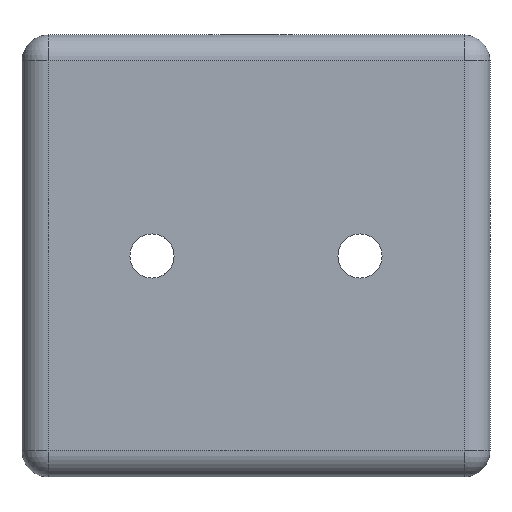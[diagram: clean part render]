
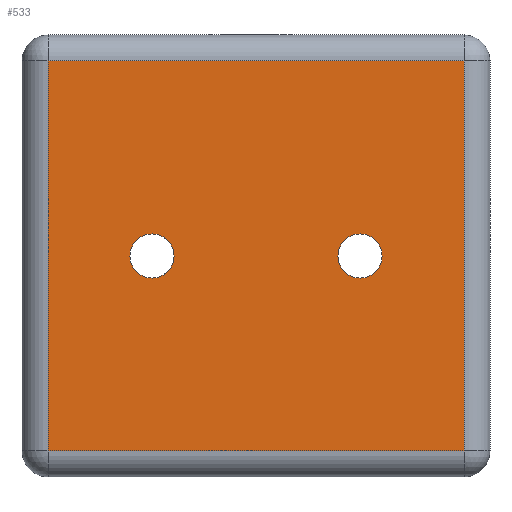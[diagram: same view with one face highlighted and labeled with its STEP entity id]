
A CAD part, front view. The second image highlights one B-rep face of the part: STEP entity #533.
In plain terms, the highlighted planar face has unit normal (0, -1, 0).
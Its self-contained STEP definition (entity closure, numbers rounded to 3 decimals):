
#44 = CYLINDRICAL_SURFACE('',#45,2.);
#45 = AXIS2_PLACEMENT_3D('',#46,#47,#48);
#46 = CARTESIAN_POINT('',(6.,-88.,-265.));
#47 = DIRECTION('',(0.,0.,1.));
#48 = DIRECTION('',(-1.,-0.,0.));
#143 = VERTEX_POINT('',#144);
#144 = CARTESIAN_POINT('',(6.,-90.,-263.));
#171 = EDGE_CURVE('',#143,#172,#174,.T.);
#172 = VERTEX_POINT('',#173);
#173 = CARTESIAN_POINT('',(6.,-90.,-233.));
#174 = SURFACE_CURVE('',#175,(#179,#186),.PCURVE_S1.);
#175 = LINE('',#176,#177);
#176 = CARTESIAN_POINT('',(6.,-90.,-265.));
#177 = VECTOR('',#178,1.);
#178 = DIRECTION('',(0.,0.,1.));
#179 = PCURVE('',#44,#180);
#180 = DEFINITIONAL_REPRESENTATION('',(#181),#185);
#181 = LINE('',#182,#183);
#182 = CARTESIAN_POINT('',(1.571,0.));
#183 = VECTOR('',#184,1.);
#184 = DIRECTION('',(0.,1.));
#185 = ( GEOMETRIC_REPRESENTATION_CONTEXT(2) 
PARAMETRIC_REPRESENTATION_CONTEXT() REPRESENTATION_CONTEXT('2D SPACE',''
  ) );
#186 = PCURVE('',#187,#192);
#187 = PLANE('',#188);
#188 = AXIS2_PLACEMENT_3D('',#189,#190,#191);
#189 = CARTESIAN_POINT('',(4.,-90.,-265.));
#190 = DIRECTION('',(0.,1.,0.));
#191 = DIRECTION('',(0.,0.,1.));
#192 = DEFINITIONAL_REPRESENTATION('',(#193),#197);
#193 = LINE('',#194,#195);
#194 = CARTESIAN_POINT('',(0.,2.));
#195 = VECTOR('',#196,1.);
#196 = DIRECTION('',(1.,0.));
#197 = ( GEOMETRIC_REPRESENTATION_CONTEXT(2) 
PARAMETRIC_REPRESENTATION_CONTEXT() REPRESENTATION_CONTEXT('2D SPACE',''
  ) );
#489 = CYLINDRICAL_SURFACE('',#490,2.);
#490 = AXIS2_PLACEMENT_3D('',#491,#492,#493);
#491 = CARTESIAN_POINT('',(4.,-88.,-263.));
#492 = DIRECTION('',(1.,0.,0.));
#493 = DIRECTION('',(0.,-1.,0.));
#521 = CYLINDRICAL_SURFACE('',#522,2.);
#522 = AXIS2_PLACEMENT_3D('',#523,#524,#525);
#523 = CARTESIAN_POINT('',(4.,-88.,-233.));
#524 = DIRECTION('',(1.,0.,0.));
#525 = DIRECTION('',(0.,-1.,0.));
#533 = ADVANCED_FACE('',(#534,#609,#640),#187,.F.);
#534 = FACE_BOUND('',#535,.F.);
#535 = EDGE_LOOP('',(#536,#537,#560,#588));
#536 = ORIENTED_EDGE('',*,*,#171,.T.);
#537 = ORIENTED_EDGE('',*,*,#538,.T.);
#538 = EDGE_CURVE('',#172,#539,#541,.T.);
#539 = VERTEX_POINT('',#540);
#540 = CARTESIAN_POINT('',(38.,-90.,-233.));
#541 = SURFACE_CURVE('',#542,(#546,#553),.PCURVE_S1.);
#542 = LINE('',#543,#544);
#543 = CARTESIAN_POINT('',(4.,-90.,-233.));
#544 = VECTOR('',#545,1.);
#545 = DIRECTION('',(1.,0.,0.));
#546 = PCURVE('',#187,#547);
#547 = DEFINITIONAL_REPRESENTATION('',(#548),#552);
#548 = LINE('',#549,#550);
#549 = CARTESIAN_POINT('',(32.,0.));
#550 = VECTOR('',#551,1.);
#551 = DIRECTION('',(0.,1.));
#552 = ( GEOMETRIC_REPRESENTATION_CONTEXT(2) 
PARAMETRIC_REPRESENTATION_CONTEXT() REPRESENTATION_CONTEXT('2D SPACE',''
  ) );
#553 = PCURVE('',#521,#554);
#554 = DEFINITIONAL_REPRESENTATION('',(#555),#559);
#555 = LINE('',#556,#557);
#556 = CARTESIAN_POINT('',(-0.,0.));
#557 = VECTOR('',#558,1.);
#558 = DIRECTION('',(-0.,1.));
#559 = ( GEOMETRIC_REPRESENTATION_CONTEXT(2) 
PARAMETRIC_REPRESENTATION_CONTEXT() REPRESENTATION_CONTEXT('2D SPACE',''
  ) );
#560 = ORIENTED_EDGE('',*,*,#561,.F.);
#561 = EDGE_CURVE('',#562,#539,#564,.T.);
#562 = VERTEX_POINT('',#563);
#563 = CARTESIAN_POINT('',(38.,-90.,-263.));
#564 = SURFACE_CURVE('',#565,(#569,#576),.PCURVE_S1.);
#565 = LINE('',#566,#567);
#566 = CARTESIAN_POINT('',(38.,-90.,-265.));
#567 = VECTOR('',#568,1.);
#568 = DIRECTION('',(0.,0.,1.));
#569 = PCURVE('',#187,#570);
#570 = DEFINITIONAL_REPRESENTATION('',(#571),#575);
#571 = LINE('',#572,#573);
#572 = CARTESIAN_POINT('',(0.,34.));
#573 = VECTOR('',#574,1.);
#574 = DIRECTION('',(1.,0.));
#575 = ( GEOMETRIC_REPRESENTATION_CONTEXT(2) 
PARAMETRIC_REPRESENTATION_CONTEXT() REPRESENTATION_CONTEXT('2D SPACE',''
  ) );
#576 = PCURVE('',#577,#582);
#577 = CYLINDRICAL_SURFACE('',#578,2.);
#578 = AXIS2_PLACEMENT_3D('',#579,#580,#581);
#579 = CARTESIAN_POINT('',(38.,-88.,-265.));
#580 = DIRECTION('',(0.,0.,1.));
#581 = DIRECTION('',(1.,0.,-0.));
#582 = DEFINITIONAL_REPRESENTATION('',(#583),#587);
#583 = LINE('',#584,#585);
#584 = CARTESIAN_POINT('',(-1.571,0.));
#585 = VECTOR('',#586,1.);
#586 = DIRECTION('',(-0.,1.));
#587 = ( GEOMETRIC_REPRESENTATION_CONTEXT(2) 
PARAMETRIC_REPRESENTATION_CONTEXT() REPRESENTATION_CONTEXT('2D SPACE',''
  ) );
#588 = ORIENTED_EDGE('',*,*,#589,.F.);
#589 = EDGE_CURVE('',#143,#562,#590,.T.);
#590 = SURFACE_CURVE('',#591,(#595,#602),.PCURVE_S1.);
#591 = LINE('',#592,#593);
#592 = CARTESIAN_POINT('',(4.,-90.,-263.));
#593 = VECTOR('',#594,1.);
#594 = DIRECTION('',(1.,0.,0.));
#595 = PCURVE('',#187,#596);
#596 = DEFINITIONAL_REPRESENTATION('',(#597),#601);
#597 = LINE('',#598,#599);
#598 = CARTESIAN_POINT('',(2.,0.));
#599 = VECTOR('',#600,1.);
#600 = DIRECTION('',(0.,1.));
#601 = ( GEOMETRIC_REPRESENTATION_CONTEXT(2) 
PARAMETRIC_REPRESENTATION_CONTEXT() REPRESENTATION_CONTEXT('2D SPACE',''
  ) );
#602 = PCURVE('',#489,#603);
#603 = DEFINITIONAL_REPRESENTATION('',(#604),#608);
#604 = LINE('',#605,#606);
#605 = CARTESIAN_POINT('',(0.,0.));
#606 = VECTOR('',#607,1.);
#607 = DIRECTION('',(0.,1.));
#608 = ( GEOMETRIC_REPRESENTATION_CONTEXT(2) 
PARAMETRIC_REPRESENTATION_CONTEXT() REPRESENTATION_CONTEXT('2D SPACE',''
  ) );
#609 = FACE_BOUND('',#610,.F.);
#610 = EDGE_LOOP('',(#611));
#611 = ORIENTED_EDGE('',*,*,#612,.F.);
#612 = EDGE_CURVE('',#613,#613,#615,.T.);
#613 = VERTEX_POINT('',#614);
#614 = CARTESIAN_POINT('',(14.,-90.,-246.3));
#615 = SURFACE_CURVE('',#616,(#621,#628),.PCURVE_S1.);
#616 = CIRCLE('',#617,1.7);
#617 = AXIS2_PLACEMENT_3D('',#618,#619,#620);
#618 = CARTESIAN_POINT('',(14.,-90.,-248.));
#619 = DIRECTION('',(0.,1.,0.));
#620 = DIRECTION('',(0.,-0.,1.));
#621 = PCURVE('',#187,#622);
#622 = DEFINITIONAL_REPRESENTATION('',(#623),#627);
#623 = CIRCLE('',#624,1.7);
#624 = AXIS2_PLACEMENT_2D('',#625,#626);
#625 = CARTESIAN_POINT('',(17.,10.));
#626 = DIRECTION('',(1.,0.));
#627 = ( GEOMETRIC_REPRESENTATION_CONTEXT(2) 
PARAMETRIC_REPRESENTATION_CONTEXT() REPRESENTATION_CONTEXT('2D SPACE',''
  ) );
#628 = PCURVE('',#629,#634);
#629 = CYLINDRICAL_SURFACE('',#630,1.7);
#630 = AXIS2_PLACEMENT_3D('',#631,#632,#633);
#631 = CARTESIAN_POINT('',(14.,-94.,-248.));
#632 = DIRECTION('',(0.,1.,0.));
#633 = DIRECTION('',(0.,-0.,1.));
#634 = DEFINITIONAL_REPRESENTATION('',(#635),#639);
#635 = LINE('',#636,#637);
#636 = CARTESIAN_POINT('',(0.,4.));
#637 = VECTOR('',#638,1.);
#638 = DIRECTION('',(1.,0.));
#639 = ( GEOMETRIC_REPRESENTATION_CONTEXT(2) 
PARAMETRIC_REPRESENTATION_CONTEXT() REPRESENTATION_CONTEXT('2D SPACE',''
  ) );
#640 = FACE_BOUND('',#641,.F.);
#641 = EDGE_LOOP('',(#642));
#642 = ORIENTED_EDGE('',*,*,#643,.F.);
#643 = EDGE_CURVE('',#644,#644,#646,.T.);
#644 = VERTEX_POINT('',#645);
#645 = CARTESIAN_POINT('',(30.,-90.,-246.3));
#646 = SURFACE_CURVE('',#647,(#652,#659),.PCURVE_S1.);
#647 = CIRCLE('',#648,1.7);
#648 = AXIS2_PLACEMENT_3D('',#649,#650,#651);
#649 = CARTESIAN_POINT('',(30.,-90.,-248.));
#650 = DIRECTION('',(0.,1.,0.));
#651 = DIRECTION('',(0.,-0.,1.));
#652 = PCURVE('',#187,#653);
#653 = DEFINITIONAL_REPRESENTATION('',(#654),#658);
#654 = CIRCLE('',#655,1.7);
#655 = AXIS2_PLACEMENT_2D('',#656,#657);
#656 = CARTESIAN_POINT('',(17.,26.));
#657 = DIRECTION('',(1.,0.));
#658 = ( GEOMETRIC_REPRESENTATION_CONTEXT(2) 
PARAMETRIC_REPRESENTATION_CONTEXT() REPRESENTATION_CONTEXT('2D SPACE',''
  ) );
#659 = PCURVE('',#660,#665);
#660 = CYLINDRICAL_SURFACE('',#661,1.7);
#661 = AXIS2_PLACEMENT_3D('',#662,#663,#664);
#662 = CARTESIAN_POINT('',(30.,-94.,-248.));
#663 = DIRECTION('',(0.,1.,0.));
#664 = DIRECTION('',(0.,-0.,1.));
#665 = DEFINITIONAL_REPRESENTATION('',(#666),#670);
#666 = LINE('',#667,#668);
#667 = CARTESIAN_POINT('',(0.,4.));
#668 = VECTOR('',#669,1.);
#669 = DIRECTION('',(1.,0.));
#670 = ( GEOMETRIC_REPRESENTATION_CONTEXT(2) 
PARAMETRIC_REPRESENTATION_CONTEXT() REPRESENTATION_CONTEXT('2D SPACE',''
  ) );
